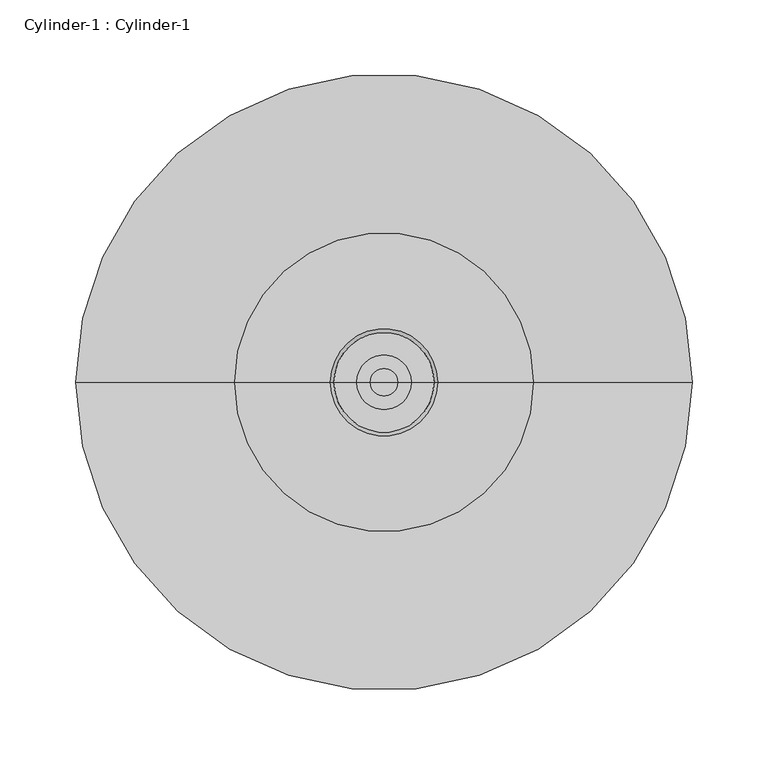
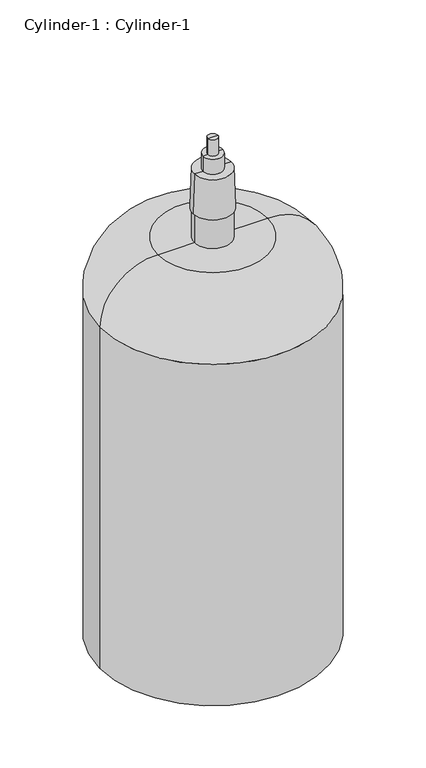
"""IFC4 building model written with IfcOpenShell, lengths in millimetres: alarm geometry, Cylinder-1 : Cylinder-1."""

from ifc_helpers import new_model, si_unit, point, frame, origin, place, context, project, spatial, polyline, circle_curve, ellipse_curve, trimmed, source, transform, mapped, element, save
from ifc_brep_helpers import plane_surface, cylinder_surface, revolved_surface, advanced_brep


def cylinder_1_cylinder_1_ec71c972(model_context):
    return source(origin(), model_context, "Body", "AdvancedBrep", [
        advanced_brep(
        [(9.0219829, 0.0, 906.6426081), (-9.0219829, 0.0, 906.6426081), (-9.0219829, 0.0, 936.75), (9.0219829, 0.0, 936.75), (17.9261315, 0.0, 906.6426081), (-17.9261315, 0.0, 906.6426081), (17.9261315, 0.0, 878.25926), (-17.9261315, 0.0, 878.25926), (32.9524445, 0.0, 878.25926), (-32.9524445, 0.0, 878.25926), (35.2648942, 0.0, 803.777946), (-35.2648942, 0.0, 803.777946), (33.1140302, 0.0, 803.777946), (-33.1140302, 0.0, 803.777946), (33.1817509, 0.0, 748.0909881), (-33.1817509, 0.0, 748.0909881), (0.0, 0.0, 748.0909881), (0.0, 0.0, 936.75)],
        [
            (0, 1, circle_curve(frame((0.0, 0.0, 906.6426081), z_axis=(0.0, 0.0, 1.0), x_axis=(-1.0, 0.0, 0.0)), 9.0219829)),
            (1, 2),
            (2, 3, circle_curve(frame((0.0, 0.0, 936.75), z_axis=(0.0, 0.0, -1.0), x_axis=(-1.0, 0.0, 0.0)), 9.0219829)),
            (3, 0),
            (1, 0, circle_curve(frame((0.0, 0.0, 906.6426081), z_axis=(0.0, 0.0, 1.0), x_axis=(-1.0, 0.0, 0.0)), 9.0219829)),
            (3, 2, circle_curve(frame((0.0, 0.0, 936.75), z_axis=(0.0, 0.0, -1.0), x_axis=(-1.0, 0.0, 0.0)), 9.0219829)),
            (4, 5, circle_curve(frame((0.0, 0.0, 906.6426081), z_axis=(0.0, 0.0, 1.0), x_axis=(-1.0, 0.0, 0.0)), 17.9261315)),
            (5, 1),
            (0, 4),
            (5, 4, circle_curve(frame((0.0, 0.0, 906.6426081), z_axis=(0.0, 0.0, 1.0), x_axis=(-1.0, 0.0, 0.0)), 17.9261315)),
            (6, 7, circle_curve(frame((0.0, 0.0, 878.25926), z_axis=(0.0, 0.0, 1.0), x_axis=(-1.0, 0.0, 0.0)), 17.9261315)),
            (7, 5),
            (4, 6),
            (7, 6, circle_curve(frame((0.0, 0.0, 878.25926), z_axis=(0.0, 0.0, 1.0), x_axis=(-1.0, 0.0, 0.0)), 17.9261315)),
            (8, 9, circle_curve(frame((0.0, 0.0, 878.25926), z_axis=(0.0, 0.0, 1.0), x_axis=(-1.0, 0.0, 0.0)), 32.9524445)),
            (9, 7),
            (6, 8),
            (9, 8, circle_curve(frame((0.0, 0.0, 878.25926), z_axis=(0.0, 0.0, 1.0), x_axis=(-1.0, 0.0, 0.0)), 32.9524445)),
            (10, 11, circle_curve(frame((0.0, 0.0, 803.777946), z_axis=(0.0, 0.0, 1.0), x_axis=(-1.0, 0.0, 0.0)), 35.2648942)),
            (11, 9),
            (8, 10),
            (11, 10, circle_curve(frame((0.0, 0.0, 803.777946), z_axis=(0.0, 0.0, 1.0), x_axis=(-1.0, 0.0, 0.0)), 35.2648942)),
            (12, 13, circle_curve(frame((0.0, 0.0, 803.777946), z_axis=(0.0, 0.0, 1.0), x_axis=(-1.0, 0.0, 0.0)), 33.1140302)),
            (13, 11),
            (10, 12),
            (13, 12, circle_curve(frame((0.0, 0.0, 803.777946), z_axis=(0.0, 0.0, 1.0), x_axis=(-1.0, 0.0, 0.0)), 33.1140302)),
            (14, 15, circle_curve(frame((0.0, 0.0, 748.0909881), z_axis=(0.0, 0.0, 1.0), x_axis=(-1.0, 0.0, 0.0)), 33.1817509)),
            (15, 13),
            (12, 14),
            (15, 14, circle_curve(frame((0.0, 0.0, 748.0909881), z_axis=(0.0, 0.0, 1.0), x_axis=(-1.0, 0.0, 0.0)), 33.1817509)),
            (16, 15),
            (14, 16),
            (2, 17),
            (17, 3),
        ],
        [
            cylinder_surface(frame((0.0, 0.0, 1091.0996609), z_axis=(0.0, 0.0, -1.0), x_axis=(-1.0, 0.0, 0.0)), 9.0219829),
            plane_surface(frame((0.0, 0.0, 906.6426081), z_axis=(0.0, 0.0, 1.0), x_axis=(-1.0, 0.0, 0.0))),
            cylinder_surface(frame((0.0, 0.0, 1091.0996609), z_axis=(0.0, 0.0, -1.0), x_axis=(-1.0, 0.0, 0.0)), 17.9261315),
            plane_surface(frame((0.0, 0.0, 878.25926), z_axis=(0.0, 0.0, 1.0), x_axis=(-1.0, 0.0, 0.0))),
            revolved_surface(polyline([(-32.9524445, 0.0, 878.25926), (-35.2648942, 0.0, 803.777946)]), (0.0, 0.0, 1091.0996609), (0.0, 0.0, -1.0)),
            plane_surface(frame((0.0, 0.0, 803.777946), z_axis=(0.0, 0.0, -1.0), x_axis=(-1.0, 0.0, 0.0))),
            cylinder_surface(frame((0.0, 0.0, 1091.0996609), z_axis=(0.0, 0.0, -1.0), x_axis=(-1.0, 0.0, 0.0)), 33.1817509),
            plane_surface(frame((0.0, 0.0, 748.0909881), z_axis=(0.0, 0.0, -1.0), x_axis=(-1.0, 0.0, 0.0))),
            plane_surface(frame((0.0, 0.0, 936.75), z_axis=(0.0, 0.0, 1.0), x_axis=(-1.0, 0.0, 0.0))),
        ],
        [
            (0, [[1, 2, 3, 4]]),
            (0, [[5, -4, 6, -2]]),
            (1, [[7, 8, -1, 9]]),
            (1, [[10, -9, -5, -8]]),
            (2, [[11, 12, -7, 13]]),
            (2, [[14, -13, -10, -12]]),
            (3, [[15, 16, -11, 17]]),
            (3, [[18, -17, -14, -16]]),
            (4, [[19, 20, -15, 21]]),
            (4, [[22, -21, -18, -20]]),
            (5, [[23, 24, -19, 25]]),
            (5, [[26, -25, -22, -24]]),
            (6, [[27, 28, -23, 29]]),
            (6, [[30, -29, -26, -28]]),
            (7, [[31, -27, 32]]),
            (7, [[-32, -30, -31]]),
            (8, [[-3, 33, 34]]),
            (8, [[-6, -34, -33]]),
        ],
    ),
        advanced_brep(
        [(0.0, 0.0, 0.0), (-203.0, 0.0, 0.0), (203.0, 0.0, 0.0), (-203.0, 0.0, 646.918714), (203.0, 0.0, 646.918714), (98.3833363, 0.0, 748.0909881), (-98.3833363, 0.0, 748.0909881), (0.0, 0.0, 748.0909881)],
        [
            (0, 1),
            (1, 2, circle_curve(frame((0.0, 0.0, 0.0), z_axis=(0.0, 0.0, -1.0), x_axis=(-1.0, 0.0, 0.0)), 203.0)),
            (2, 0),
            (2, 1, circle_curve(frame((0.0, 0.0, 0.0), z_axis=(0.0, 0.0, -1.0), x_axis=(-1.0, 0.0, 0.0)), 203.0)),
            (1, 3),
            (3, 4, circle_curve(frame((0.0, 0.0, 646.918714), z_axis=(0.0, 0.0, -1.0), x_axis=(-1.0, 0.0, 0.0)), 203.0)),
            (4, 2),
            (4, 3, circle_curve(frame((0.0, 0.0, 646.918714), z_axis=(0.0, 0.0, -1.0), x_axis=(-1.0, 0.0, 0.0)), 203.0)),
            (5, 6, circle_curve(frame((0.0, 0.0, 748.0909881), z_axis=(0.0, 0.0, 1.0), x_axis=(-1.0, 0.0, 0.0)), 98.3833363)),
            (6, 7),
            (7, 5),
            (6, 5, circle_curve(frame((0.0, 0.0, 748.0909881), z_axis=(0.0, 0.0, 1.0), x_axis=(-1.0, 0.0, 0.0)), 98.3833363)),
            (3, 6, circle_curve(frame((-101.7710246, 0.0, 646.918714), z_axis=(0.0, 1.0, 0.0), x_axis=(1.0, 0.0, 0.0)), 101.2289754)),
            (5, 4, circle_curve(frame((101.7710246, 0.0, 646.918714), z_axis=(0.0, 1.0, 0.0), x_axis=(-1.0, 0.0, 0.0)), 101.2289754)),
        ],
        [
            plane_surface(frame((0.0, 0.0, 0.0), z_axis=(0.0, 0.0, -1.0), x_axis=(-1.0, 0.0, 0.0))),
            cylinder_surface(frame((0.0, 0.0, 586.172274), z_axis=(0.0, 0.0, -1.0), x_axis=(-1.0, 0.0, 0.0)), 203.0),
            plane_surface(frame((0.0, 0.0, 748.0909881), z_axis=(0.0, 0.0, 1.0), x_axis=(-1.0, 0.0, 0.0))),
            revolved_surface(trimmed(ellipse_curve(frame((-101.7710246, 0.0, 646.918714), z_axis=(0.0, -1.0, 0.0), x_axis=(1.0, 0.0, 0.0)), 101.2289754, 101.2289754), [point((-98.3833363, 0.0, 748.0909881))], [point((-203.0, 0.0, 646.918714))], True, "CARTESIAN"), (0.0, 0.0, 586.172274), (0.0, 0.0, -1.0)),
        ],
        [
            (0, [[1, 2, 3]]),
            (0, [[-3, 4, -1]]),
            (1, [[-2, 5, 6, 7]]),
            (1, [[-4, -7, 8, -5]]),
            (2, [[9, 10, 11]]),
            (2, [[12, -11, -10]]),
            (3, [[-6, 13, -9, 14]]),
            (3, [[-8, -14, -12, -13]]),
        ],
    ),
    ])


if __name__ == "__main__":
    model = new_model("IFC4")
    model_context = context("Model", 3, world=origin())
    ifc_project = project(units=[si_unit("LENGTHUNIT", "METRE", prefix="MILLI")], contexts=[model_context])
    site = spatial("IfcSite", under=ifc_project)
    building = spatial("IfcBuilding", under=site)
    placement = place(None, origin())
    cylinder_1_cylinder_1_shape = cylinder_1_cylinder_1_ec71c972(model_context)
    element("IfcAlarm", 1, ObjectType="Cylinder-1 : Cylinder-1", at=placement, inside=building, context=model_context, shape_type="MappedRepresentation", body=[
        mapped(cylinder_1_cylinder_1_shape, transform((0.0, 0.0, 0.0), x_axis=(1.0, 0.0, 0.0), y_axis=(0.0, 1.0, 0.0), z_axis=(0.0, 0.0, 1.0))),
    ])
    save(model, "model.ifc")
